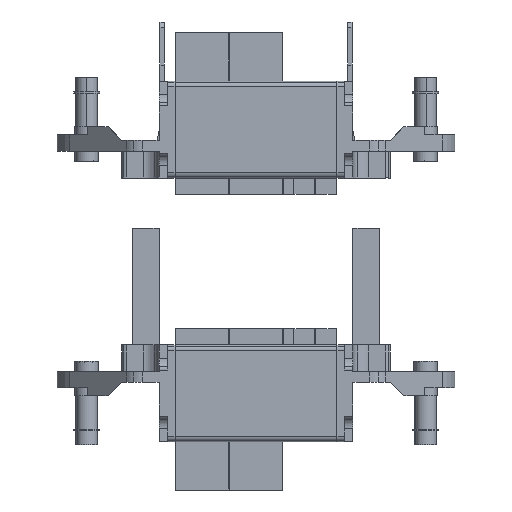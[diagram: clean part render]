
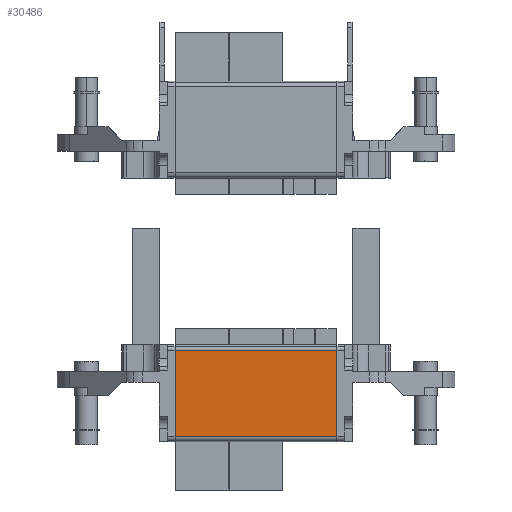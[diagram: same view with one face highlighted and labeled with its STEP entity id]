
A CAD part, front view. The second image highlights one B-rep face of the part: STEP entity #30486.
In plain terms, the highlighted planar face has unit normal (0, -1, 0).
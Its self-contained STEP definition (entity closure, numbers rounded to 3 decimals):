
#26516=CARTESIAN_POINT(' ',(15.,-17.5,-4.));
#26517=VERTEX_POINT(' ',#26516);
#26531=CARTESIAN_POINT(' ',(15.,-17.5,-20.));
#26536=DIRECTION(' ',(0.,0.,1.));
#26541=VECTOR(' ',#26536,1.);
#26546=LINE('',#26531,#26541);
#26551=CARTESIAN_POINT(' ',(15.,-17.5,-20.));
#26552=VERTEX_POINT(' ',#26551);
#26556=EDGE_CURVE(' ',#26552,#26517,#26546,.T.);
#28821=CARTESIAN_POINT(' ',(-15.,-17.5,-20.));
#28822=VERTEX_POINT(' ',#28821);
#28836=CARTESIAN_POINT(' ',(-15.,-17.5,-20.));
#28841=DIRECTION(' ',(0.,0.,1.));
#28846=VECTOR(' ',#28841,1.);
#28851=LINE('',#28836,#28846);
#28856=CARTESIAN_POINT(' ',(-15.,-17.5,-4.));
#28857=VERTEX_POINT(' ',#28856);
#28861=EDGE_CURVE(' ',#28822,#28857,#28851,.T.);
#30356=CARTESIAN_POINT(' ',(-15.,-17.5,-4.));
#30361=DIRECTION(' ',(1.,0.,0.));
#30366=VECTOR(' ',#30361,1.);
#30371=LINE('',#30356,#30366);
#30376=EDGE_CURVE(' ',#28857,#26517,#30371,.T.);
#30406=DIRECTION(' ',(0.,-1.,0.));
#30411=CARTESIAN_POINT(' ',(-15.,-17.5,-4.));
#30416=DIRECTION(' ',(0.,0.,-1.));
#30421=AXIS2_PLACEMENT_3D(' ',#30411,#30406,#30416);
#30426=PLANE('NONE',#30421);
#30431=CARTESIAN_POINT(' ',(15.,-17.5,-20.));
#30436=DIRECTION(' ',(-1.,0.,0.));
#30441=VECTOR(' ',#30436,1.);
#30446=LINE('',#30431,#30441);
#30451=EDGE_CURVE(' ',#26552,#28822,#30446,.T.);
#30456=ORIENTED_EDGE(' ',*,*,#30451,.F.);
#30461=ORIENTED_EDGE(' ',*,*,#26556,.T.);
#30466=ORIENTED_EDGE(' ',*,*,#30376,.F.);
#30471=ORIENTED_EDGE(' ',*,*,#28861,.F.);
#30476=EDGE_LOOP(' ',(#30456,#30461,#30466,#30471));
#30481=FACE_OUTER_BOUND(' ',#30476,.T.);
#30486=ADVANCED_FACE('NONE',(#30481),#30426,.T.);
